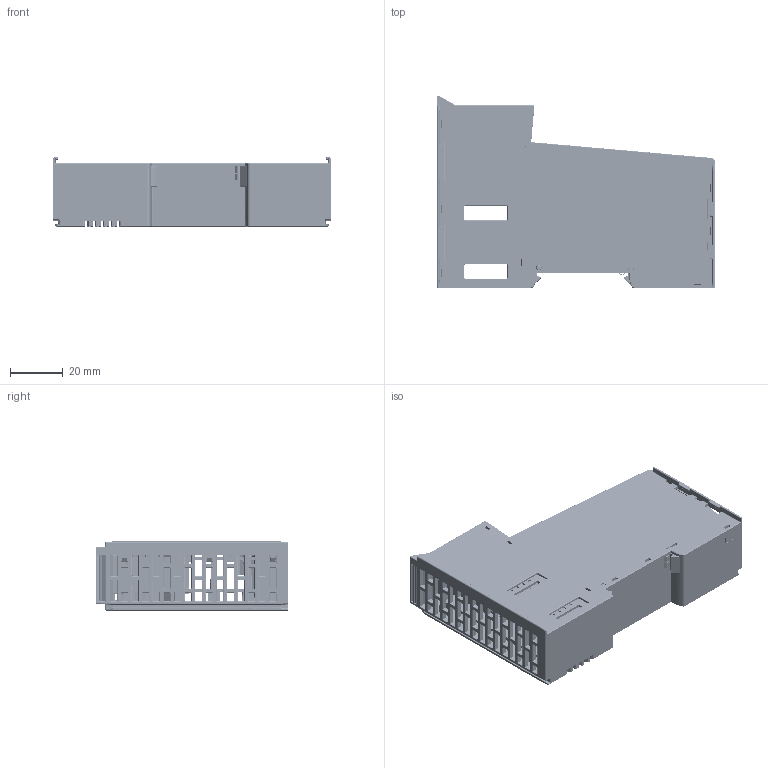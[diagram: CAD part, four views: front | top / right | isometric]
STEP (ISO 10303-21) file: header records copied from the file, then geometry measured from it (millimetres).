
FILE_DESCRIPTION((''),'2;1');
FILE_NAME('BSP-1601-S17626_ASM','2025-12-24T',('Junjie.Feng'),(''),'CREO PARAMETRIC BY PTC INC, 2016260','CREO PARAMETRIC BY PTC INC, 2016260','');
FILE_SCHEMA(('CONFIG_CONTROL_DESIGN'));
Products named in the file (9): 0173V60300_AF3; C000004600; PCB_BSP-1601-02_AF3; PCB_BSP-1601-01_AF3; 0173B04300; 0173W80300_AF3; T000167200; 0173W70300-1_AF3; BSP-1601-S17626_ASM
Assembly tree (8 placements, depth 2):
  BSP-1601-S17626_ASM
    0173V60300_AF3
    C000004600
    PCB_BSP-1601-02_AF3
    PCB_BSP-1601-01_AF3
    0173B04300
    0173W80300_AF3
    T000167200
    0173W70300-1_AF3
Bounding box: 105 x 72.55 x 26.1 mm (x, y, z)
Volume: 41897.8 mm3; surface area: 70328.3 mm2
Topology: 8 solids, 8 shells, 13981 faces, 37759 edges, 24308 vertices
Faces by surface type: plane 6128, extrusion 4258, cylinder 2424, torus 722, bspline 222, sphere 135, cone 87, revolution 5
Entity records: 612902 total; most frequent: CARTESIAN_POINT 147914, ORIENTED_EDGE 75390, DIRECTION 56201, PRESENTATION_STYLE_ASSIGNMENT 39743, STYLED_ITEM 39258, EDGE_CURVE 37695, CURVE_STYLE 37673, VECTOR 27222
